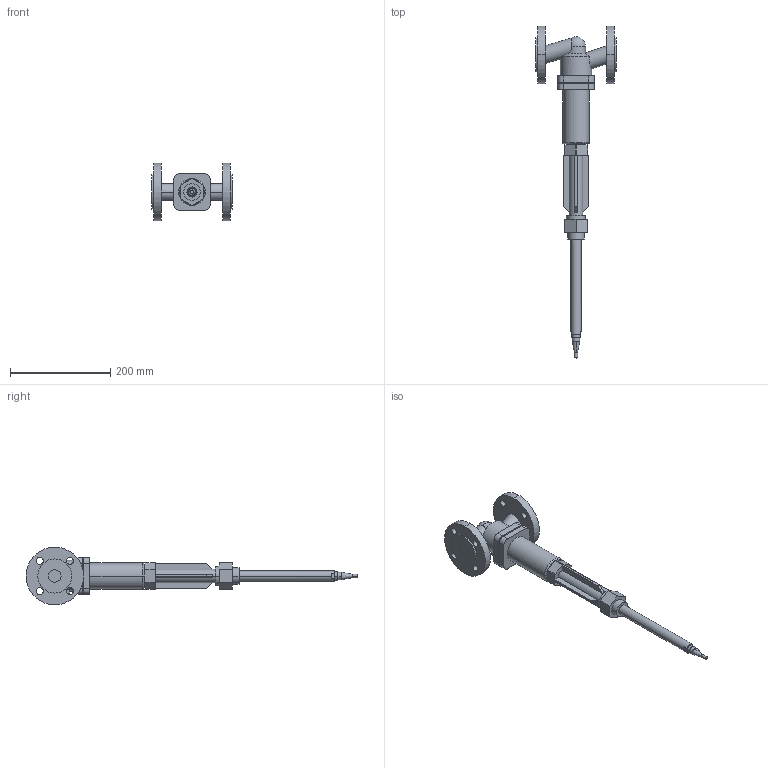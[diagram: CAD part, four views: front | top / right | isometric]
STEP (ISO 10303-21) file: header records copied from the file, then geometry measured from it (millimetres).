
FILE_DESCRIPTION(('CoCreate Modeling STEP Export'),'2;1');
FILE_NAME('c000001244.stp','2011-09-22T10:48:36',(''),(''),'CoCreate Modeling STEP processor for AP214 (Solid Model)','CoCreate Modeling 17.0 01-Apr-2010 (C) Parametric Technology GmbH','');
FILE_SCHEMA(('AUTOMOTIVE_DESIGN { 1 0 10303 214 1 1 1 1 }'));
Length unit declared in the file: millimetre
Products named in the file (1): 1
Bounding box: 160 x 662.94 x 115 mm (x, y, z)
Volume: 1197996.4 mm3; surface area: 162053.4 mm2
Topology: 1 solids, 1 shells, 170 faces, 425 edges, 276 vertices
Faces by surface type: plane 80, cylinder 76, cone 10, torus 2, sphere 2
Entity records: 7346 total; most frequent: CARTESIAN_POINT 2129, ORIENTED_EDGE 846, DIRECTION 727, EDGE_CURVE 423, VERTEX_POINT 276, AXIS2_PLACEMENT_3D 253, VECTOR 221, LINE 221
